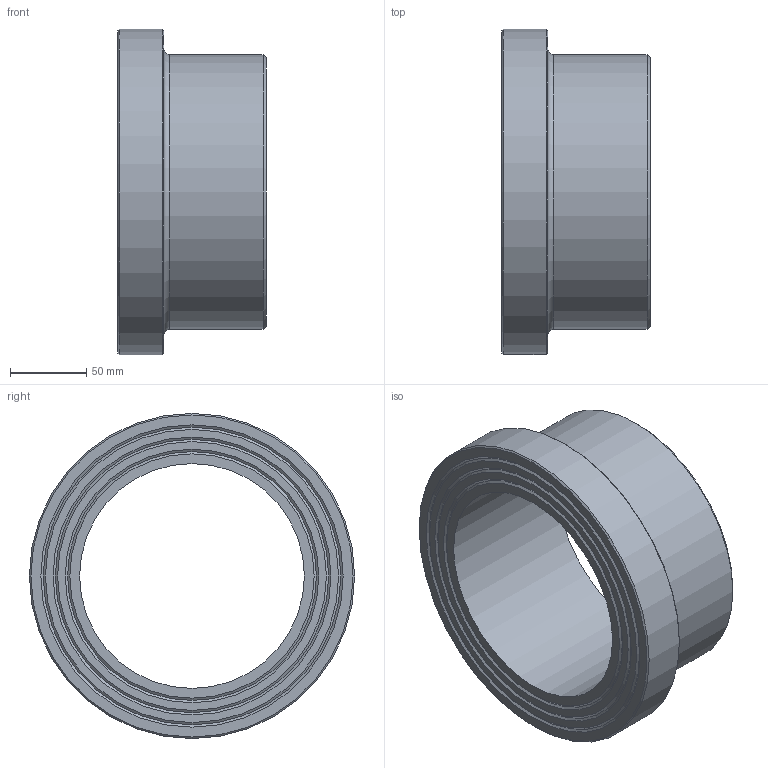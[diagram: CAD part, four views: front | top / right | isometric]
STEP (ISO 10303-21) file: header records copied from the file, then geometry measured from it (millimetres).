
FILE_DESCRIPTION(/* description */ ('Unknown'),/* implementation_level */ '2;1');
FILE_NAME(/* name */ 'CCP180C',/* time_stamp */ '2022-04-04T14:57:51+02:00',/* author */ ('Unknown'),/* organization */ ('Unknown'),/* preprocessor_version */ 'ST-DEVELOPER v18.1',/* originating_system */ 'Solid Edge',/* authorisation */ 'Unknown');
FILE_SCHEMA (('AUTOMOTIVE_DESIGN {1 0 10303 214 3 1 1}'));
Length unit declared in the file: millimetre
Products named in the file (1): CCP180C
Bounding box: 97 x 213 x 213 mm (x, y, z)
Volume: 1120577.4 mm3; surface area: 138846 mm2
Topology: 1 solids, 1 shells, 19 faces, 33 edges, 20 vertices
Faces by surface type: cone 9, plane 6, cylinder 3, torus 1
Full cylindrical faces by diameter (mm): 147.2 x1, 180 x1, 213 x1
Entity records: 418 total; most frequent: DIRECTION 78, CARTESIAN_POINT 58, AXIS2_PLACEMENT_3D 39, ORIENTED_EDGE 38, EDGE_LOOP 38, FACE_BOUND 38, EDGE_CURVE 19, VERTEX_POINT 19
